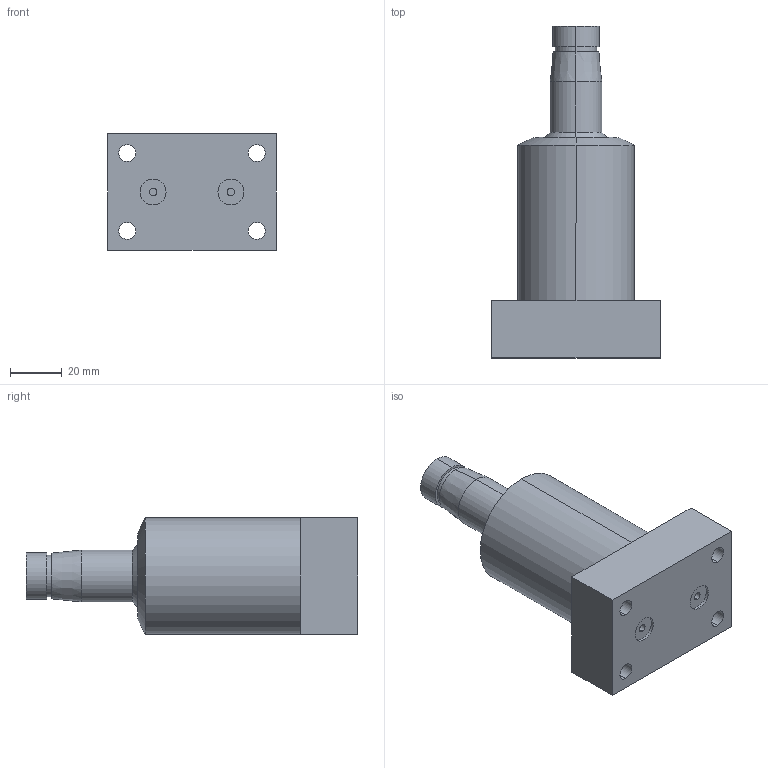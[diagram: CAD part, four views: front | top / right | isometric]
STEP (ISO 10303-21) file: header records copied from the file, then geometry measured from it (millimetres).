
FILE_DESCRIPTION (( 'STEP AP214' ), '1' );
FILE_NAME ('HPS-25-D-C.STEP', '2021-10-18T01:09:53', ( '' ), ( '' ), 'SwSTEP 2.0', 'SolidWorks 2016', '' );
FILE_SCHEMA (( 'AUTOMOTIVE_DESIGN' ));
Length unit declared in the file: millimetre
Products named in the file (1): HPS-25-D-C
Bounding box: 65 x 128 x 45 mm (x, y, z)
Volume: 172778.1 mm3; surface area: 23493.6 mm2
Topology: 1 solids, 1 shells, 45 faces, 98 edges, 62 vertices
Faces by surface type: cylinder 24, plane 15, cone 6
Entity records: 1362 total; most frequent: DIRECTION 244, CARTESIAN_POINT 206, ORIENTED_EDGE 196, AXIS2_PLACEMENT_3D 100, EDGE_CURVE 98, VERTEX_POINT 62, EDGE_LOOP 60, CIRCLE 54
